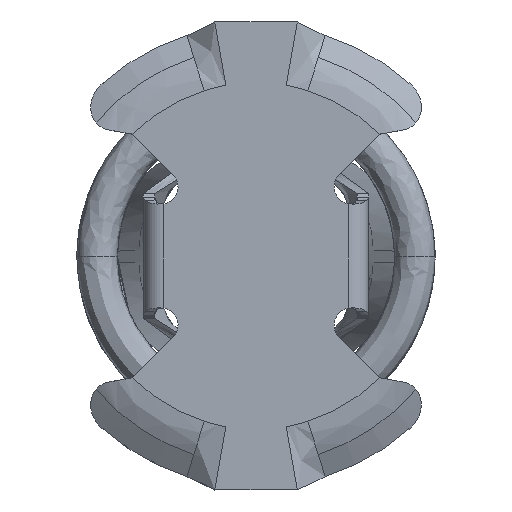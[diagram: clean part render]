
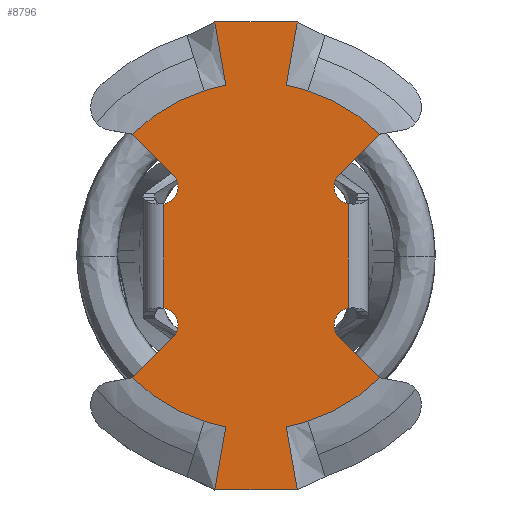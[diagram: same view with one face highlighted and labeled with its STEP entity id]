
A CAD part, top view. The second image highlights one B-rep face of the part: STEP entity #8796.
In plain terms, the highlighted planar face has unit normal (0, 0, 1).
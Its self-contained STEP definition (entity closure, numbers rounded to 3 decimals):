
#7736=CARTESIAN_POINT(' ',(1.65,1.2,0.));
#7741=DIRECTION(' ',(0.,0.,-1.));
#7746=DIRECTION(' ',(-0.167,-0.986,0.));
#7751=AXIS2_PLACEMENT_3D(' ',#7736,#7741,#7746);
#7756=CIRCLE('',#7751,0.3);
#7761=CARTESIAN_POINT(' ',(1.6,0.904,0.));
#7762=VERTEX_POINT(' ',#7761);
#7766=CARTESIAN_POINT(' ',(1.438,1.412,0.));
#7767=VERTEX_POINT(' ',#7766);
#7771=EDGE_CURVE(' ',#7762,#7767,#7756,.T.);
#7901=DIRECTION(' ',(-0.,-0.,1.));
#7906=CARTESIAN_POINT(' ',(-2.134,-4.05,0.));
#7911=DIRECTION(' ',(1.,0.,0.));
#7916=AXIS2_PLACEMENT_3D(' ',#7906,#7901,#7911);
#7921=PLANE('',#7916);
#7926=CARTESIAN_POINT(' ',(1.65,-1.2,0.));
#7931=DIRECTION(' ',(0.,0.,-1.));
#7936=DIRECTION(' ',(-0.707,-0.707,0.));
#7941=AXIS2_PLACEMENT_3D(' ',#7926,#7931,#7936);
#7946=CIRCLE('',#7941,0.3);
#7951=CARTESIAN_POINT(' ',(1.438,-1.412,0.));
#7952=VERTEX_POINT(' ',#7951);
#7956=CARTESIAN_POINT(' ',(1.6,-0.904,0.));
#7957=VERTEX_POINT(' ',#7956);
#7961=EDGE_CURVE(' ',#7952,#7957,#7946,.T.);
#7966=ORIENTED_EDGE(' ',*,*,#7961,.T.);
#7971=CARTESIAN_POINT(' ',(1.6,-0.904,0.));
#7976=DIRECTION(' ',(0.,1.,0.));
#7981=VECTOR(' ',#7976,1.);
#7986=LINE('',#7971,#7981);
#7991=EDGE_CURVE(' ',#7957,#7762,#7986,.T.);
#7996=ORIENTED_EDGE(' ',*,*,#7991,.T.);
#8001=ORIENTED_EDGE(' ',*,*,#7771,.T.);
#8006=CARTESIAN_POINT(' ',(1.438,1.412,0.));
#8011=DIRECTION(' ',(0.707,0.707,0.));
#8016=VECTOR(' ',#8011,1.);
#8021=LINE('',#8006,#8016);
#8026=CARTESIAN_POINT(' ',(2.134,2.108,0.));
#8027=VERTEX_POINT(' ',#8026);
#8031=EDGE_CURVE(' ',#7767,#8027,#8021,.T.);
#8036=ORIENTED_EDGE(' ',*,*,#8031,.T.);
#8041=CARTESIAN_POINT(' ',(-0.004,-0.006,0.));
#8046=DIRECTION(' ',(0.,0.,1.));
#8051=DIRECTION(' ',(0.711,0.703,0.));
#8056=AXIS2_PLACEMENT_3D(' ',#8041,#8046,#8051);
#8061=CIRCLE('',#8056,3.007);
#8066=CARTESIAN_POINT(' ',(0.897,2.863,0.));
#8067=VERTEX_POINT(' ',#8066);
#8071=EDGE_CURVE(' ',#8027,#8067,#8061,.T.);
#8076=ORIENTED_EDGE(' ',*,*,#8071,.T.);
#8081=CARTESIAN_POINT(' ',(0.,-0.001,0.));
#8086=DIRECTION(' ',(0.,0.,1.));
#8091=DIRECTION(' ',(0.299,0.954,0.));
#8096=AXIS2_PLACEMENT_3D(' ',#8081,#8086,#8091);
#8101=CIRCLE('',#8096,3.001);
#8106=CARTESIAN_POINT(' ',(0.521,2.954,0.));
#8107=VERTEX_POINT(' ',#8106);
#8111=EDGE_CURVE(' ',#8067,#8107,#8101,.T.);
#8116=ORIENTED_EDGE(' ',*,*,#8111,.T.);
#8121=CARTESIAN_POINT(' ',(0.714,4.05,0.));
#8126=DIRECTION(' ',(-0.174,-0.985,0.));
#8131=VECTOR(' ',#8126,1.);
#8136=LINE('',#8121,#8131);
#8141=CARTESIAN_POINT(' ',(0.714,4.05,0.));
#8142=VERTEX_POINT(' ',#8141);
#8146=EDGE_CURVE(' ',#8142,#8107,#8136,.T.);
#8151=ORIENTED_EDGE(' ',*,*,#8146,.F.);
#8156=CARTESIAN_POINT(' ',(-0.714,4.05,0.));
#8161=DIRECTION(' ',(1.,0.,0.));
#8166=VECTOR(' ',#8161,1.);
#8171=LINE('',#8156,#8166);
#8176=CARTESIAN_POINT(' ',(-0.714,4.05,0.));
#8177=VERTEX_POINT(' ',#8176);
#8181=EDGE_CURVE(' ',#8177,#8142,#8171,.T.);
#8186=ORIENTED_EDGE(' ',*,*,#8181,.F.);
#8191=CARTESIAN_POINT(' ',(-0.521,2.954,0.));
#8196=DIRECTION(' ',(-0.174,0.985,0.));
#8201=VECTOR(' ',#8196,1.);
#8206=LINE('',#8191,#8201);
#8211=CARTESIAN_POINT(' ',(-0.521,2.954,0.));
#8212=VERTEX_POINT(' ',#8211);
#8216=EDGE_CURVE(' ',#8212,#8177,#8206,.T.);
#8221=ORIENTED_EDGE(' ',*,*,#8216,.F.);
#8226=CARTESIAN_POINT(' ',(0.,-0.001,0.));
#8231=DIRECTION(' ',(0.,0.,1.));
#8236=DIRECTION(' ',(-0.174,0.985,0.));
#8241=AXIS2_PLACEMENT_3D(' ',#8226,#8231,#8236);
#8246=CIRCLE('',#8241,3.001);
#8251=CARTESIAN_POINT(' ',(-0.897,2.863,0.));
#8252=VERTEX_POINT(' ',#8251);
#8256=EDGE_CURVE(' ',#8212,#8252,#8246,.T.);
#8261=ORIENTED_EDGE(' ',*,*,#8256,.T.);
#8266=CARTESIAN_POINT(' ',(0.004,-0.006,0.));
#8271=DIRECTION(' ',(0.,0.,1.));
#8276=DIRECTION(' ',(-0.3,0.954,0.));
#8281=AXIS2_PLACEMENT_3D(' ',#8266,#8271,#8276);
#8286=CIRCLE('',#8281,3.007);
#8291=CARTESIAN_POINT(' ',(-2.134,2.108,0.));
#8292=VERTEX_POINT(' ',#8291);
#8296=EDGE_CURVE(' ',#8252,#8292,#8286,.T.);
#8301=ORIENTED_EDGE(' ',*,*,#8296,.T.);
#8306=CARTESIAN_POINT(' ',(-2.134,2.108,0.));
#8311=DIRECTION(' ',(0.707,-0.707,0.));
#8316=VECTOR(' ',#8311,1.);
#8321=LINE('',#8306,#8316);
#8326=CARTESIAN_POINT(' ',(-1.438,1.412,0.));
#8327=VERTEX_POINT(' ',#8326);
#8331=EDGE_CURVE(' ',#8292,#8327,#8321,.T.);
#8336=ORIENTED_EDGE(' ',*,*,#8331,.T.);
#8341=CARTESIAN_POINT(' ',(-1.65,1.2,0.));
#8346=DIRECTION(' ',(0.,0.,-1.));
#8351=DIRECTION(' ',(0.707,0.707,0.));
#8356=AXIS2_PLACEMENT_3D(' ',#8341,#8346,#8351);
#8361=CIRCLE('',#8356,0.3);
#8366=CARTESIAN_POINT(' ',(-1.6,0.904,0.));
#8367=VERTEX_POINT(' ',#8366);
#8371=EDGE_CURVE(' ',#8327,#8367,#8361,.T.);
#8376=ORIENTED_EDGE(' ',*,*,#8371,.T.);
#8381=CARTESIAN_POINT(' ',(-1.6,-0.904,0.));
#8386=DIRECTION(' ',(0.,1.,0.));
#8391=VECTOR(' ',#8386,1.);
#8396=LINE('',#8381,#8391);
#8401=CARTESIAN_POINT(' ',(-1.6,-0.904,0.));
#8402=VERTEX_POINT(' ',#8401);
#8406=EDGE_CURVE(' ',#8402,#8367,#8396,.T.);
#8411=ORIENTED_EDGE(' ',*,*,#8406,.F.);
#8416=CARTESIAN_POINT(' ',(-1.65,-1.2,0.));
#8421=DIRECTION(' ',(0.,0.,-1.));
#8426=DIRECTION(' ',(0.167,0.986,0.));
#8431=AXIS2_PLACEMENT_3D(' ',#8416,#8421,#8426);
#8436=CIRCLE('',#8431,0.3);
#8441=CARTESIAN_POINT(' ',(-1.438,-1.412,0.));
#8442=VERTEX_POINT(' ',#8441);
#8446=EDGE_CURVE(' ',#8402,#8442,#8436,.T.);
#8451=ORIENTED_EDGE(' ',*,*,#8446,.T.);
#8456=CARTESIAN_POINT(' ',(-1.438,-1.412,0.));
#8461=DIRECTION(' ',(-0.707,-0.707,0.));
#8466=VECTOR(' ',#8461,1.);
#8471=LINE('',#8456,#8466);
#8476=CARTESIAN_POINT(' ',(-2.134,-2.108,0.));
#8477=VERTEX_POINT(' ',#8476);
#8481=EDGE_CURVE(' ',#8442,#8477,#8471,.T.);
#8486=ORIENTED_EDGE(' ',*,*,#8481,.T.);
#8491=CARTESIAN_POINT(' ',(0.002,0.003,0.));
#8496=DIRECTION(' ',(0.,0.,1.));
#8501=DIRECTION(' ',(-0.711,-0.703,0.));
#8506=AXIS2_PLACEMENT_3D(' ',#8491,#8496,#8501);
#8511=CIRCLE('',#8506,3.003);
#8516=CARTESIAN_POINT(' ',(-0.897,-2.863,0.));
#8517=VERTEX_POINT(' ',#8516);
#8521=EDGE_CURVE(' ',#8477,#8517,#8511,.T.);
#8526=ORIENTED_EDGE(' ',*,*,#8521,.T.);
#8531=CARTESIAN_POINT(' ',(0.,0.001,0.));
#8536=DIRECTION(' ',(0.,0.,-1.));
#8541=DIRECTION(' ',(-0.174,-0.985,0.));
#8546=AXIS2_PLACEMENT_3D(' ',#8531,#8536,#8541);
#8551=CIRCLE('',#8546,3.001);
#8556=CARTESIAN_POINT(' ',(-0.521,-2.954,0.));
#8557=VERTEX_POINT(' ',#8556);
#8561=EDGE_CURVE(' ',#8557,#8517,#8551,.T.);
#8566=ORIENTED_EDGE(' ',*,*,#8561,.F.);
#8571=CARTESIAN_POINT(' ',(-0.714,-4.05,0.));
#8576=DIRECTION(' ',(0.174,0.985,0.));
#8581=VECTOR(' ',#8576,1.);
#8586=LINE('',#8571,#8581);
#8591=CARTESIAN_POINT(' ',(-0.714,-4.05,0.));
#8592=VERTEX_POINT(' ',#8591);
#8596=EDGE_CURVE(' ',#8592,#8557,#8586,.T.);
#8601=ORIENTED_EDGE(' ',*,*,#8596,.F.);
#8606=CARTESIAN_POINT(' ',(0.714,-4.05,0.));
#8611=DIRECTION(' ',(-1.,0.,0.));
#8616=VECTOR(' ',#8611,1.);
#8621=LINE('',#8606,#8616);
#8626=CARTESIAN_POINT(' ',(0.714,-4.05,0.));
#8627=VERTEX_POINT(' ',#8626);
#8631=EDGE_CURVE(' ',#8627,#8592,#8621,.T.);
#8636=ORIENTED_EDGE(' ',*,*,#8631,.F.);
#8641=CARTESIAN_POINT(' ',(0.521,-2.954,0.));
#8646=DIRECTION(' ',(0.174,-0.985,0.));
#8651=VECTOR(' ',#8646,1.);
#8656=LINE('',#8641,#8651);
#8661=CARTESIAN_POINT(' ',(0.521,-2.954,0.));
#8662=VERTEX_POINT(' ',#8661);
#8666=EDGE_CURVE(' ',#8662,#8627,#8656,.T.);
#8671=ORIENTED_EDGE(' ',*,*,#8666,.F.);
#8676=CARTESIAN_POINT(' ',(0.,0.001,0.));
#8681=DIRECTION(' ',(0.,0.,-1.));
#8686=DIRECTION(' ',(0.299,-0.954,0.));
#8691=AXIS2_PLACEMENT_3D(' ',#8676,#8681,#8686);
#8696=CIRCLE('',#8691,3.001);
#8701=CARTESIAN_POINT(' ',(0.897,-2.863,0.));
#8702=VERTEX_POINT(' ',#8701);
#8706=EDGE_CURVE(' ',#8702,#8662,#8696,.T.);
#8711=ORIENTED_EDGE(' ',*,*,#8706,.F.);
#8716=CARTESIAN_POINT(' ',(-0.004,0.006,0.));
#8721=DIRECTION(' ',(0.,0.,1.));
#8726=DIRECTION(' ',(0.3,-0.954,0.));
#8731=AXIS2_PLACEMENT_3D(' ',#8716,#8721,#8726);
#8736=CIRCLE('',#8731,3.007);
#8741=CARTESIAN_POINT(' ',(2.134,-2.108,0.));
#8742=VERTEX_POINT(' ',#8741);
#8746=EDGE_CURVE(' ',#8702,#8742,#8736,.T.);
#8751=ORIENTED_EDGE(' ',*,*,#8746,.T.);
#8756=CARTESIAN_POINT(' ',(2.134,-2.108,0.));
#8761=DIRECTION(' ',(-0.707,0.707,0.));
#8766=VECTOR(' ',#8761,1.);
#8771=LINE('',#8756,#8766);
#8776=EDGE_CURVE(' ',#8742,#7952,#8771,.T.);
#8781=ORIENTED_EDGE(' ',*,*,#8776,.T.);
#8786=EDGE_LOOP(' ',(#7966,#7996,#8001,#8036,#8076,#8116,#8151,#8186,#8221,#8261,#8301,#8336,#8376,#8411,#8451,#8486,#8526,#8566,#8601,#8636,#8671,#8711,#8751,#8781));
#8791=FACE_OUTER_BOUND(' ',#8786,.T.);
#8796=ADVANCED_FACE('',(#8791),#7921,.T.);
